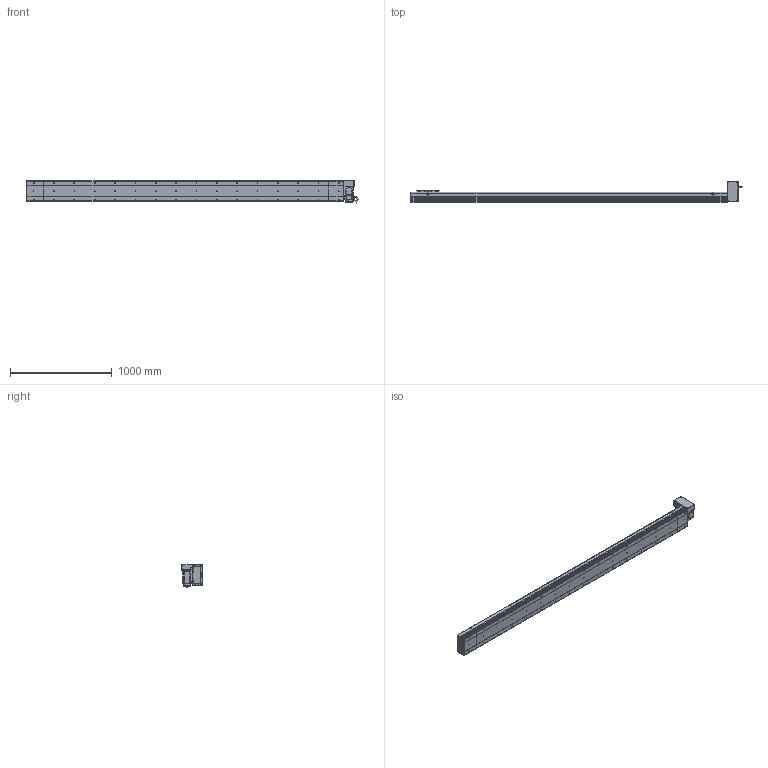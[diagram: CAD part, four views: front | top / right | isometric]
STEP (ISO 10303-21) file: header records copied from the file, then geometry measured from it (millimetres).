
FILE_DESCRIPTION (( 'STEP AP214' ), '1' );
FILE_NAME ('D20 CBH LT S2800.STEP', '2010-06-30T10:30:34', ( 'Conseil Régional Haute-Normandie' ), ( 'Conseil Régional Haute-Normandie' ), 'SwSTEP 2.0', 'SolidWorks 2010', '' );
FILE_SCHEMA (( 'AUTOMOTIVE_DESIGN' ));
Length unit declared in the file: millimetre
Products named in the file (31): vis M5 L30_Default; Corp D20 S2800_Default; Cache Support Moteur LT_Default; Conecteur_Default; Conecteur2_Default; codeur 90BLDC125-640; corps 90BLDC125A-640; Plaque de Bout Head D20 LT_Default; avant 90BLDC125A-640; Support moteur LT_Default; Rondelle Cache D20 LT_Default; Moteur motionking 90BLDC125A-640; vis M5 L47_Default; ecrou_Default; Corp Tail D20 LT_Default; Couvercle LT_Default; Plaque De Serrage D20 LT_Default; Support Chariot D20_Default; Couvercle_Default; Couvercle S2800_Default; Plaque de Bout Tail D20_Default; Chariot D20_Default; Tail D20_Default; Corp S2800_Default; Plaque De Serrage D20_Default; Glissiere_Default; vis M5 L15_Default; Corp Tail D20_Default; D20 CBH LT S2800; Head LT_Default
Assembly tree (66 placements, depth 4):
  D20 CBH LT S2800
    Head LT_Default
      Couvercle LT_Default
      Rondelle Cache D20 LT_Default  x3
      vis M5 L47_Default  x4
      vis M5 L15_Default  x12
      Corp Tail D20 LT_Default
      Plaque De Serrage D20 LT_Default
      ecrou_Default  x4
      Support moteur LT_Default
      vis M5 L30_Default  x4
      Cache Support Moteur LT_Default
      Moteur motionking 90BLDC125A-640
        avant 90BLDC125A-640
        Conecteur_Default
        Conecteur2_Default
        corps 90BLDC125A-640
        codeur 90BLDC125-640
      Plaque de Bout Head D20 LT_Default
    Corp D20 S2800_Default
      Corp S2800_Default
      Couvercle S2800_Default
    Tail D20_Default
      Couvercle_Default
      vis M5 L15_Default  x6
      Plaque de Bout Tail D20_Default
      Corp Tail D20_Default
      Plaque De Serrage D20_Default
    Chariot D20_Default
      vis M5 L15_Default  x8
      Support Chariot D20_Default
      Glissiere_Default
      Chariot D20_Default
Bounding box: 3263.45 x 202.5 x 229.7 mm (x, y, z)
Volume: 21901487.4 mm3; surface area: 4237033.5 mm2
Topology: 103 solids, 103 shells, 3819 faces, 9548 edges, 6208 vertices
Faces by surface type: plane 2110, bspline 806, cylinder 740, torus 91, cone 68, sphere 4
Entity records: 161830 total; most frequent: CARTESIAN_POINT 83419, ORIENTED_EDGE 15564, DIRECTION 11856, EDGE_CURVE 7782, VERTEX_POINT 5152, VECTOR 4970, LINE 4970, AXIS2_PLACEMENT_3D 3443
